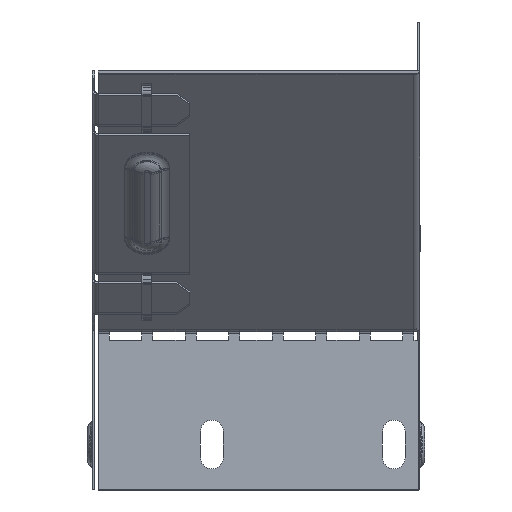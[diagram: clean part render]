
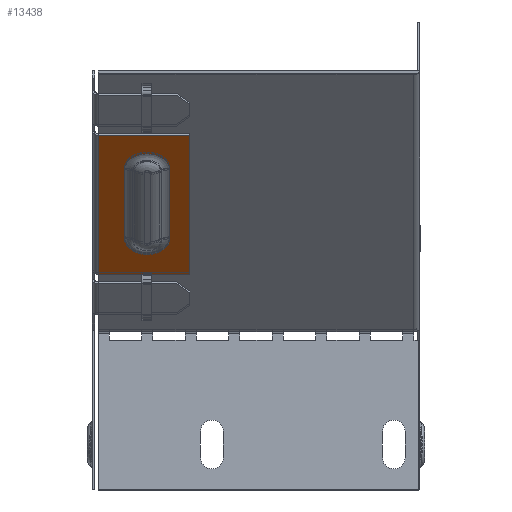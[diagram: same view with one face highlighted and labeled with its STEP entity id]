
A CAD part, left-side view. The second image highlights one B-rep face of the part: STEP entity #13438.
In plain terms, the highlighted planar face has unit normal (-0.707, 0, -0.707).
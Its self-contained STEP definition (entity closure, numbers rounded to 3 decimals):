
#399 = DIRECTION ( 'NONE',  ( 0., 1., 0. ) ) ;
#1558 = ORIENTED_EDGE ( 'NONE', *, *, #9673, .T. ) ;
#1660 = VERTEX_POINT ( 'NONE', #21592 ) ;
#1847 = CARTESIAN_POINT ( 'NONE',  ( -126.206, 76.183, -45.472 ) ) ;
#2010 = LINE ( 'NONE', #3162, #5163 ) ;
#2827 = CARTESIAN_POINT ( 'NONE',  ( -78.337, 100., -93.341 ) ) ;
#3162 = CARTESIAN_POINT ( 'NONE',  ( -94.022, 70., -77.656 ) ) ;
#3668 = AXIS2_PLACEMENT_3D ( 'NONE', #2827, #15255, #4594 ) ;
#3979 = FACE_OUTER_BOUND ( 'NONE', #13575, .T. ) ;
#4594 = DIRECTION ( 'NONE',  ( 0.707, 0., -0.707 ) ) ;
#5163 = VECTOR ( 'NONE', #21132, 1000. ) ;
#5286 = EDGE_CURVE ( 'NONE', #15759, #16177, #2010, .T. ) ;
#5348 = VERTEX_POINT ( 'NONE', #19401 ) ;
#5445 = EDGE_CURVE ( 'NONE', #5348, #22979, #11048, .T. ) ;
#5511 = CARTESIAN_POINT ( 'NONE',  ( -104.993, 76.183, -66.685 ) ) ;
#5659 = EDGE_CURVE ( 'NONE', #22979, #20287, #20953, .T. ) ;
#6015 = CARTESIAN_POINT ( 'NONE',  ( -153.087, 98.2, -18.591 ) ) ;
#6146 = CARTESIAN_POINT ( 'NONE',  ( -136.823, 70., -34.855 ) ) ;
#7104 = FACE_BOUND ( 'NONE', #11091, .T. ) ;
#7107 = CARTESIAN_POINT ( 'NONE',  ( -136.823, 98.2, -34.855 ) ) ;
#7117 = ORIENTED_EDGE ( 'NONE', *, *, #5445, .T. ) ;
#7301 = ORIENTED_EDGE ( 'NONE', *, *, #21975, .T. ) ;
#7393 = ORIENTED_EDGE ( 'NONE', *, *, #17702, .F. ) ;
#8960 = LINE ( 'NONE', #15181, #17143 ) ;
#9022 = DIRECTION ( 'NONE',  ( 0.707, 0., 0.707 ) ) ;
#9147 = AXIS2_PLACEMENT_3D ( 'NONE', #22415, #11645, #11568 ) ;
#9673 = EDGE_CURVE ( 'NONE', #16294, #12775, #15146, .T. ) ;
#10282 = VECTOR ( 'NONE', #14756, 1000. ) ;
#10591 = CARTESIAN_POINT ( 'NONE',  ( -126.206, 83.1, -45.472 ) ) ;
#10865 = EDGE_CURVE ( 'NONE', #1660, #5348, #19360, .T. ) ;
#11021 = CARTESIAN_POINT ( 'NONE',  ( -94.022, 98.2, -77.656 ) ) ;
#11048 = CIRCLE ( 'NONE', #14993, 6.917 ) ;
#11091 = EDGE_LOOP ( 'NONE', ( #17820, #20279, #12530, #7117 ) ) ;
#11525 = CARTESIAN_POINT ( 'NONE',  ( -104.993, 76.183, -66.685 ) ) ;
#11527 = DIRECTION ( 'NONE',  ( -0.707, 0., 0.707 ) ) ;
#11568 = DIRECTION ( 'NONE',  ( 0.5, -0.707, -0.5 ) ) ;
#11645 = DIRECTION ( 'NONE',  ( 0.707, 0., 0.707 ) ) ;
#12530 = ORIENTED_EDGE ( 'NONE', *, *, #10865, .T. ) ;
#12775 = VERTEX_POINT ( 'NONE', #7107 ) ;
#13438 = ADVANCED_FACE ( 'NONE', ( #7104, #3979 ), #18917, .F. ) ;
#13451 = CIRCLE ( 'NONE', #9147, 6.917 ) ;
#13575 = EDGE_LOOP ( 'NONE', ( #7393, #18879, #7301, #1558 ) ) ;
#14690 = EDGE_CURVE ( 'NONE', #20287, #1660, #13451, .T. ) ;
#14756 = DIRECTION ( 'NONE',  ( -0.707, 0., 0.707 ) ) ;
#14993 = AXIS2_PLACEMENT_3D ( 'NONE', #10591, #9022, #17871 ) ;
#15146 = LINE ( 'NONE', #6146, #23419 ) ;
#15181 = CARTESIAN_POINT ( 'NONE',  ( -78.337, 70., -93.341 ) ) ;
#15255 = DIRECTION ( 'NONE',  ( 0.707, 0., 0.707 ) ) ;
#15759 = VERTEX_POINT ( 'NONE', #11021 ) ;
#16177 = VERTEX_POINT ( 'NONE', #23217 ) ;
#16289 = CARTESIAN_POINT ( 'NONE',  ( -136.823, 70., -34.855 ) ) ;
#16294 = VERTEX_POINT ( 'NONE', #16289 ) ;
#17143 = VECTOR ( 'NONE', #22560, 1000. ) ;
#17702 = EDGE_CURVE ( 'NONE', #15759, #12775, #22709, .T. ) ;
#17820 = ORIENTED_EDGE ( 'NONE', *, *, #5659, .T. ) ;
#17871 = DIRECTION ( 'NONE',  ( 0.5, -0.707, -0.5 ) ) ;
#17879 = VECTOR ( 'NONE', #11527, 1000. ) ;
#18820 = DIRECTION ( 'NONE',  ( 0.707, 0., -0.707 ) ) ;
#18879 = ORIENTED_EDGE ( 'NONE', *, *, #5286, .T. ) ;
#18917 = PLANE ( 'NONE',  #3668 ) ;
#19360 = LINE ( 'NONE', #21969, #10282 ) ;
#19401 = CARTESIAN_POINT ( 'NONE',  ( -126.206, 90.017, -45.472 ) ) ;
#20279 = ORIENTED_EDGE ( 'NONE', *, *, #14690, .T. ) ;
#20287 = VERTEX_POINT ( 'NONE', #5511 ) ;
#20953 = LINE ( 'NONE', #11525, #22098 ) ;
#21132 = DIRECTION ( 'NONE',  ( 0., -1., 0. ) ) ;
#21592 = CARTESIAN_POINT ( 'NONE',  ( -104.993, 90.017, -66.685 ) ) ;
#21969 = CARTESIAN_POINT ( 'NONE',  ( -104.993, 90.017, -66.685 ) ) ;
#21975 = EDGE_CURVE ( 'NONE', #16177, #16294, #8960, .T. ) ;
#22098 = VECTOR ( 'NONE', #18820, 1000. ) ;
#22415 = CARTESIAN_POINT ( 'NONE',  ( -104.993, 83.1, -66.685 ) ) ;
#22560 = DIRECTION ( 'NONE',  ( -0.707, 0., 0.707 ) ) ;
#22709 = LINE ( 'NONE', #6015, #17879 ) ;
#22979 = VERTEX_POINT ( 'NONE', #1847 ) ;
#23217 = CARTESIAN_POINT ( 'NONE',  ( -94.022, 70., -77.656 ) ) ;
#23419 = VECTOR ( 'NONE', #399, 1000. ) ;
